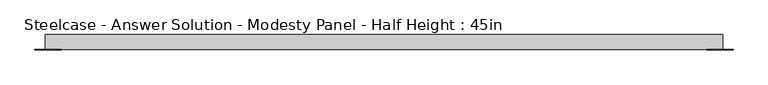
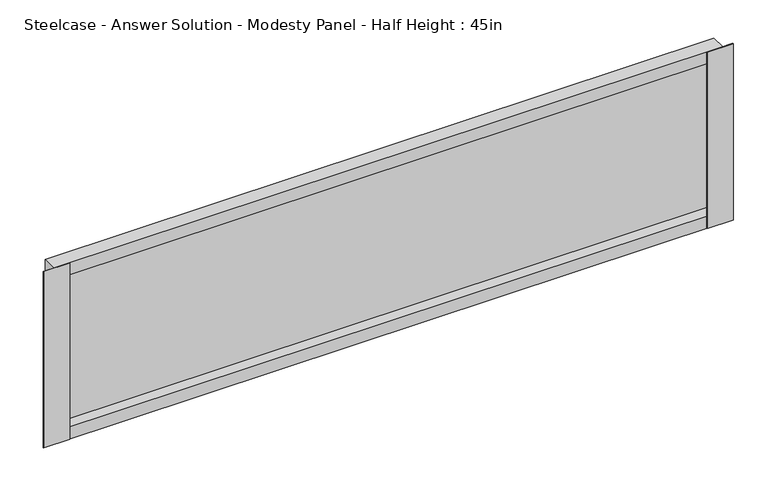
"""IFC4 building model written with IfcOpenShell, lengths in millimetres: furniture geometry, Steelcase - Answer Solution - Modesty Panel - Half Height : 45in."""

import ifcopenshell
import ifcopenshell.guid

model = None  # the IFC model being written
_history = None  # IfcOwnerHistory: only IFC2X3 demands one
_inside = {}  # id of a spatial element -> (the spatial element, [elements in it])
_under = {}  # id of a project, library or spatial element -> (it, [spatial elements below it])
_declared = {}  # id of a project -> (the project, [libraries it declares])
_typed = {}  # id of a type object -> (the type object, [elements of that type])
_made_of = {}  # id of a material, layer set ... -> (it, [elements and type objects made of it])


def new_model(schema):
    """Start an empty IFC model of exactly this schema.

    Asked for "IFC4X3", IfcOpenShell would pick the latest addendum, in which some entities
    have other attributes; the version numbers below select the first issue.
    IFC2X3 requires an IfcOwnerHistory on every rooted entity: one is made here for all.
    """
    global model, _history
    if schema == "IFC4X3":
        model = ifcopenshell.file(schema_version=(4, 3, 0, 0))
    else:
        model = ifcopenshell.file(schema=schema)
    _inside.clear()
    _under.clear()
    _declared.clear()
    _typed.clear()
    _made_of.clear()
    _history = None
    if model.schema == "IFC2X3":
        org = make("IfcOrganization", Name="unknown")
        user = make(
            "IfcPersonAndOrganization",
            ThePerson=make("IfcPerson", FamilyName="unknown"),
            TheOrganization=org,
        )
        app = make(
            "IfcApplication",
            ApplicationDeveloper=org,
            Version="unknown",
            ApplicationFullName="unknown",
            ApplicationIdentifier="unknown",
        )
        _history = make(
            "IfcOwnerHistory",
            OwningUser=user,
            OwningApplication=app,
            ChangeAction="ADDED",
            CreationDate=0,
        )
    return model


def make(cls, **values):
    """One entity of the class cls with the attributes given. An attribute that is None is left unset."""
    return model.create_entity(
        cls, **{name: value for name, value in values.items() if value is not None}
    )


def rooted(cls, **values):
    """An entity with a GlobalId (a new one), such as an element, a storey or a relation."""
    return make(cls, GlobalId=ifcopenshell.guid.new(), OwnerHistory=_history, **values)


def si_unit(unit_type, name, prefix=None):
    """IfcSIUnit, for example si_unit("LENGTHUNIT", "METRE", prefix="MILLI")."""
    return make("IfcSIUnit", UnitType=unit_type, Prefix=prefix, Name=name)


def assignment(units):
    """IfcUnitAssignment: the units of a project."""
    return None if units is None else make("IfcUnitAssignment", Units=units)


def point(xyz):
    """IfcCartesianPoint."""
    return None if xyz is None else make("IfcCartesianPoint", Coordinates=xyz)


def direction(xyz):
    """IfcDirection."""
    return None if xyz is None else make("IfcDirection", DirectionRatios=xyz)


def frame(location, z_axis=None, x_axis=None):
    """IfcAxis2Placement3D, a coordinate frame: its origin and axes. An axis left out is left unset."""
    return make(
        "IfcAxis2Placement3D",
        Location=point(location),
        Axis=direction(z_axis),
        RefDirection=direction(x_axis),
    )


def origin():
    """The frame at (0, 0, 0) with its axes left unset."""
    return frame((0.0, 0.0, 0.0))


def place(relative_to, where):
    """IfcLocalPlacement: puts the frame where relative to a parent placement (None: the world)."""
    return make(
        "IfcLocalPlacement", PlacementRelTo=relative_to, RelativePlacement=where
    )


def context(
    kind, dimensions, precision=None, world=None, true_north=None, identifier=None
):
    """IfcGeometricRepresentationContext, for example the 3D "Model" context."""
    return make(
        "IfcGeometricRepresentationContext",
        ContextIdentifier=identifier,
        ContextType=kind,
        CoordinateSpaceDimension=dimensions,
        Precision=precision,
        WorldCoordinateSystem=world,
        TrueNorth=true_north,
    )


def project(units=None, contexts=None):
    """IfcProject with its units and contexts."""
    return rooted(
        "IfcProject",
        Name="project",
        RepresentationContexts=contexts,
        UnitsInContext=assignment(units),
    )


def spatial(cls, under=None, at=None, **own):
    """A site, building, storey or space (cls), placed at a placement, below another one or the project."""
    s = rooted(cls, ObjectPlacement=at, **own)
    if under is not None:
        _under.setdefault(under.id(), (under, []))[1].append(s)
    return s


def polyline(points):
    """IfcPolyline through the points."""
    return make("IfcPolyline", Points=[point(p) for p in points])


def outline(outer, holes=None, kind="AREA"):
    """IfcArbitraryClosedProfileDef: a profile drawn as a closed curve; with holes, ...WithVoids."""
    if holes is None:
        return make("IfcArbitraryClosedProfileDef", ProfileType=kind, OuterCurve=outer)
    return make(
        "IfcArbitraryProfileDefWithVoids",
        ProfileType=kind,
        OuterCurve=outer,
        InnerCurves=holes,
    )


def extrude(swept, where, along, depth):
    """IfcExtrudedAreaSolid: the profile swept, set in the frame where, extruded along a direction by depth."""
    return make(
        "IfcExtrudedAreaSolid",
        SweptArea=swept,
        Position=where,
        ExtrudedDirection=direction(along),
        Depth=depth,
    )


def faces_of(points, faces, orient=None, outer=None):
    """IfcFace entities. A face is a list of loops; a loop is a list of indices into points, from 0.

    orient and outer hold one flag for each loop. By default every Orientation is true, the
    first loop of a face is its IfcFaceOuterBound and the others are IfcFaceBound.
    """
    made = []
    for i, loops in enumerate(faces):
        bounds = []
        for j, loop in enumerate(loops):
            is_outer = j == 0 if outer is None else outer[i][j]
            bounds.append(
                make(
                    "IfcFaceOuterBound" if is_outer else "IfcFaceBound",
                    Bound=make("IfcPolyLoop", Polygon=[points[k] for k in loop]),
                    Orientation=True if orient is None else orient[i][j],
                )
            )
        made.append(make("IfcFace", Bounds=bounds))
    return made


def faceted_brep(points, faces, orient=None, outer=None, voids=None):
    """IfcFacetedBrep: a solid bounded by flat faces; with voids (closed shells), ...WithVoids."""
    shared = [point(p) for p in points]
    hull = make("IfcClosedShell", CfsFaces=faces_of(shared, faces, orient, outer))
    if voids is None:
        return make("IfcFacetedBrep", Outer=hull)
    return make(
        "IfcFacetedBrepWithVoids",
        Outer=hull,
        Voids=[
            make(cls, CfsFaces=faces_of(shared, fs, o, b)) for cls, fs, o, b in voids
        ],
    )


def shape(context_of_items, identifier, shape_type, items):
    """IfcShapeRepresentation: the items that make up one representation, for example the "Body"."""
    return make(
        "IfcShapeRepresentation",
        ContextOfItems=context_of_items,
        RepresentationIdentifier=identifier,
        RepresentationType=shape_type,
        Items=items,
    )


def source(mapping_origin, context_of_items, identifier, shape_type, items):
    """IfcRepresentationMap: a shape defined once, which mapped items show again and again."""
    return make(
        "IfcRepresentationMap",
        MappingOrigin=mapping_origin,
        MappedRepresentation=shape(context_of_items, identifier, shape_type, items),
    )


def transform(
    local_origin,
    x_axis=None,
    y_axis=None,
    z_axis=None,
    scale=None,
    scale2=None,
    scale3=None,
    uniform=True,
):
    """IfcCartesianTransformationOperator3D, or its non-uniform kind. x_axis, y_axis, z_axis: its Axis1, 2, 3."""
    if uniform:
        return make(
            "IfcCartesianTransformationOperator3D",
            Axis1=direction(x_axis),
            Axis2=direction(y_axis),
            LocalOrigin=point(local_origin),
            Scale=scale,
            Axis3=direction(z_axis),
        )
    return make(
        "IfcCartesianTransformationOperator3DnonUniform",
        Axis1=direction(x_axis),
        Axis2=direction(y_axis),
        LocalOrigin=point(local_origin),
        Scale=scale,
        Axis3=direction(z_axis),
        Scale2=scale2,
        Scale3=scale3,
    )


def mapped(mapping_source, mapping_target):
    """IfcMappedItem: shows the shape of a source again, moved by a transform."""
    return make(
        "IfcMappedItem", MappingSource=mapping_source, MappingTarget=mapping_target
    )


def made_of(thing, what):
    """Note that an element or type object is made of a material, layer set ...; save() writes the relation."""
    if what is not None:
        _made_of.setdefault(what.id(), (what, []))[1].append(thing)
    return thing


def element(
    cls,
    number,
    at=None,
    inside=None,
    cuts=None,
    type_object=None,
    material=None,
    context=None,
    identifier="Body",
    shape_type=None,
    held_by="IfcProductDefinitionShape",
    body=None,
    shapes=None,
    **own,
):
    """One element of the class cls, such as IfcWall. Its Tag is "e" and its number.

    at: its placement. inside: the storey or other place that contains it. cuts: it is an
    opening in that element (IfcRelVoidsElement). A single representation is given by context,
    identifier, shape_type and body (its items); several are given by shapes. held_by: the class
    of the entity that holds the representations. save() writes the other relations.
    """
    e = rooted(cls, Tag="e%d" % number, ObjectPlacement=at, **own)
    if body is not None:
        shapes = [shape(context, identifier, shape_type, body)]
    if shapes is not None:
        e.Representation = make(held_by, Representations=shapes)
    if inside is not None:
        _inside.setdefault(inside.id(), (inside, []))[1].append(e)
    if cuts is not None:
        rooted(
            "IfcRelVoidsElement", RelatingBuildingElement=cuts, RelatedOpeningElement=e
        )
    if type_object is not None:
        _typed.setdefault(type_object.id(), (type_object, []))[1].append(e)
    return made_of(e, material)


def aggregate(whole, parts):
    """IfcRelAggregates: a whole, such as a stair, and the parts it consists of."""
    return rooted("IfcRelAggregates", RelatingObject=whole, RelatedObjects=parts)


def save(model, path):
    """Write the relations noted so far, then the file.

    IfcRelAggregates (storeys below a building ...), IfcRelContainedInSpatialStructure (elements
    in a storey), IfcRelDefinesByType, IfcRelAssociatesMaterial and IfcRelDeclares: one each for
    every whole, place, type object, material and project.
    """
    for whole, parts in _under.values():
        aggregate(whole, parts)
    for where, things in _inside.values():
        rooted(
            "IfcRelContainedInSpatialStructure",
            RelatedElements=things,
            RelatingStructure=where,
        )
    for kind, things in _typed.values():
        rooted("IfcRelDefinesByType", RelatedObjects=things, RelatingType=kind)
    for what, things in _made_of.values():
        rooted("IfcRelAssociatesMaterial", RelatedObjects=things, RelatingMaterial=what)
    for by, libraries in _declared.values():
        rooted("IfcRelDeclares", RelatingContext=by, RelatedDefinitions=libraries)
    model.write(path)


def steelcase_answer_solution_modesty_panel_half_height_45in_6f4337e2(model_context):
    return source(origin(), model_context, "Body", "SolidModel", [
        extrude(outline(polyline([(1686.5400478, -14.2668826), (1686.5400478, -15.0593624), (1642.1248254, -15.0593624), (1642.1248254, -14.2668826), (1686.5400478, -14.2668826)])), frame((0.0, 0.0, 17.653), z_axis=(0.0, 0.0, 1.0), x_axis=(1.0, 0.0, 0.0)), (0.0, 0.0, 1.0), 317.5),
        extrude(outline(polyline([(556.9673392, -14.2668826), (556.9673392, -15.0593624), (512.5520826, -15.0593624), (512.5520826, -14.2668826), (556.9673392, -14.2668826)])), frame((0.0, 0.0, 17.653), z_axis=(0.0, 0.0, 1.0), x_axis=(1.0, 0.0, 0.0)), (0.0, 0.0, 1.0), 317.5),
        faceted_brep([(530.0780827, 10.9045177, 17.653), (530.0780827, -14.2668826, 17.653), (530.0780827, -14.2668826, 335.153), (530.0780827, 10.9045177, 335.153), (1669.0140827, -14.2668826, 17.653), (1669.0140827, 10.9045177, 17.653), (1669.0140827, 10.9045177, 335.153), (1669.0140827, -14.2668826, 335.153), (1668.2216165, 4.7831174, 39.243), (530.8705628, 4.7831174, 39.243), (530.8705628, -14.2668826, 39.243), (1668.2216165, -14.2668826, 39.243), (530.8705628, -14.2668826, 313.563), (1668.2216165, -14.2668826, 313.563), (530.8705628, 4.7831174, 313.563), (1668.2216165, 4.7831174, 313.563)], [[[0, 1, 2, 3]], [[4, 5, 6, 7]], [[8, 9, 10, 11]], [[0, 3, 6, 5]], [[4, 1, 0, 5]], [[2, 1, 4, 7], [10, 12, 13, 11]], [[3, 2, 7, 6]], [[14, 15, 13, 12]], [[9, 8, 15, 14]], [[12, 10, 9, 14]], [[11, 13, 15, 8]]]),
    ])


if __name__ == "__main__":
    model = new_model("IFC4")
    model_context = context("Model", 3, world=origin())
    ifc_project = project(units=[si_unit("LENGTHUNIT", "METRE", prefix="MILLI")], contexts=[model_context])
    site = spatial("IfcSite", under=ifc_project)
    building = spatial("IfcBuilding", under=site)
    placement = place(None, origin())
    steelcase_answer_solution_modesty_panel_half_height_45in_shape = steelcase_answer_solution_modesty_panel_half_height_45in_6f4337e2(model_context)
    element("IfcFurniture", 1, ObjectType="Steelcase - Answer Solution - Modesty Panel - Half Height : 45in", at=placement, inside=building, context=model_context, shape_type="MappedRepresentation", body=[
        mapped(steelcase_answer_solution_modesty_panel_half_height_45in_shape, transform((0.0, 0.0, 0.0), x_axis=(1.0, 0.0, 0.0), y_axis=(0.0, 1.0, 0.0), z_axis=(0.0, 0.0, 1.0))),
    ])
    save(model, "model.ifc")
